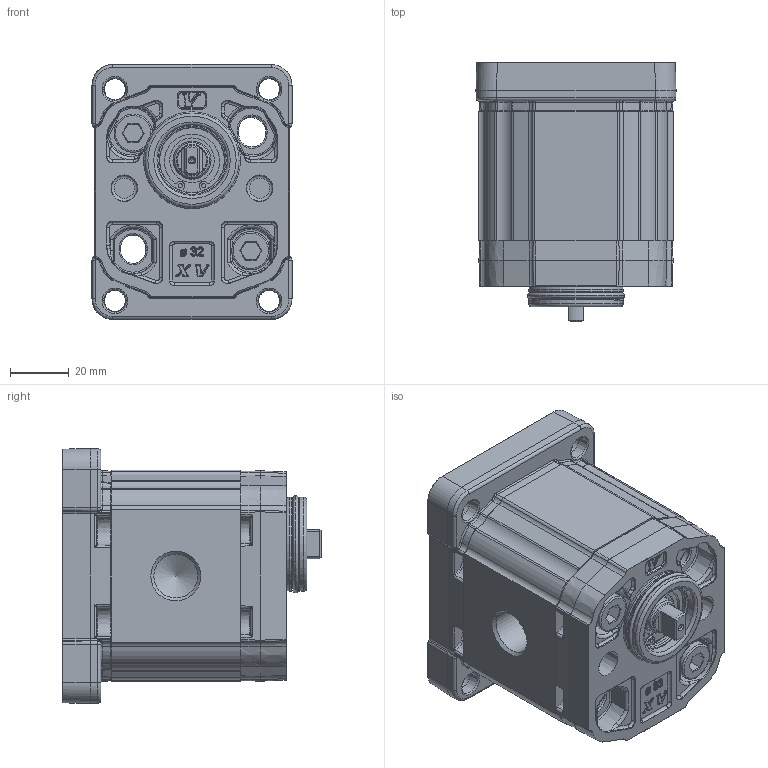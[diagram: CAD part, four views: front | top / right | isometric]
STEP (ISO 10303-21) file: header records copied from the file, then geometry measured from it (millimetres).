
FILE_DESCRIPTION(/* description */ ('Unknown'),/* implementation_level */ '2;1');
FILE_NAME(/* name */ 'X1T1841DBBA',/* time_stamp */ '2026-05-27T08:29:51+02:00',/* author */ ('Unknown'),/* organization */ ('Unknown'),/* preprocessor_version */ 'ST-DEVELOPER v16.7',/* originating_system */ 'Solid Edge',/* authorisation */ 'Unknown');
FILE_SCHEMA (('AUTOMOTIVE_DESIGN {1 0 10303 214 3 1 1}'));
Products named in the file (5): X1T1841DBBA; X1T41; 1D; X1BBH44; XT119-A
Assembly tree (4 placements, depth 2):
  X1T1841DBBA
    X1T41
    1D
    X1BBH44
    XT119-A
Bounding box: 68 x 88 x 86.7 mm (x, y, z)
Volume: 304330.9 mm3; surface area: 69625.4 mm2
Topology: 5 solids, 6 shells, 2144 faces, 5218 edges, 3097 vertices
Faces by surface type: cylinder 703, bspline 407, plane 402, torus 352, cone 228, sphere 52
Full cylindrical faces by diameter (mm): 1.447 x2, 1.5 x1, 2.5 x1, 3.65 x2, 6.8 x2, 7.15 x4, 7.99 x2, 8 x2, 8.5 x3, 9 x2, 9.337 x2, 9.9 x1, 10 x1, 10.5 x4, 11.965 x2, 12 x2, 12.923 x1, 13 x1, 14.95 x2, 15.115 x1, 15.181 x1, 19 x2, 20 x1, 21.4 x1, 22 x2, 22.2 x1, 23 x1, 24 x1, 25.4 x1, 29.4 x2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
Entity records: 104053 total; most frequent: CARTESIAN_POINT 42061, ORIENTED_EDGE 9856, DIRECTION 9660, EDGE_CURVE 4928, AXIS2_PLACEMENT_3D 4129, VERTEX_POINT 3029, FACE_BOUND 2413, EDGE_LOOP 2408
